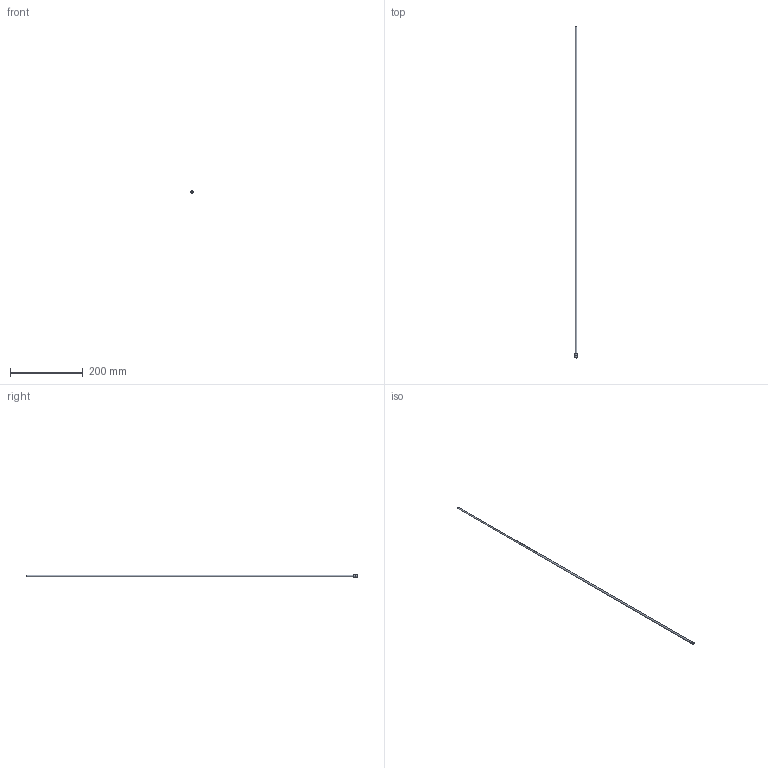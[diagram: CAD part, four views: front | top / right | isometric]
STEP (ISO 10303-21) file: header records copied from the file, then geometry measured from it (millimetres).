
FILE_DESCRIPTION(/* description */ (''),/* implementation_level */ '2;1');
FILE_NAME(/* name */ 'C:/Users/drich/Desktop/R187T-36 v2.step',/* time_stamp */ '2019-12-30T13:14:46-06:00',/* author */ (''),/* organization */ (''),/* preprocessor_version */ 'ST-DEVELOPER v18',/* originating_system */ 'Autodesk Translation Framework v8.12.0.6',/* authorisation */ '');
FILE_SCHEMA (('AUTOMOTIVE_DESIGN { 1 0 10303 214 3 1 1 }'));
Length unit declared in the file: inch
Products named in the file (1): R187T-36
Bounding box: 7.77 x 914.4 x 7.77 mm (x, y, z)
Volume: 3360 mm3; surface area: 25914.8 mm2
Topology: 1 solids, 1 shells, 19 faces, 47 edges, 33 vertices
Faces by surface type: plane 11, cylinder 4, torus 3, cone 1
Full cylindrical faces by diameter (mm): 4.242 x1, 4.724 x1, 6.243 x1, 7.772 x1
Entity records: 624 total; most frequent: DIRECTION 111, CARTESIAN_POINT 100, ORIENTED_EDGE 94, EDGE_CURVE 47, AXIS2_PLACEMENT_3D 44, VERTEX_POINT 33, EDGE_LOOP 24, CIRCLE 24
